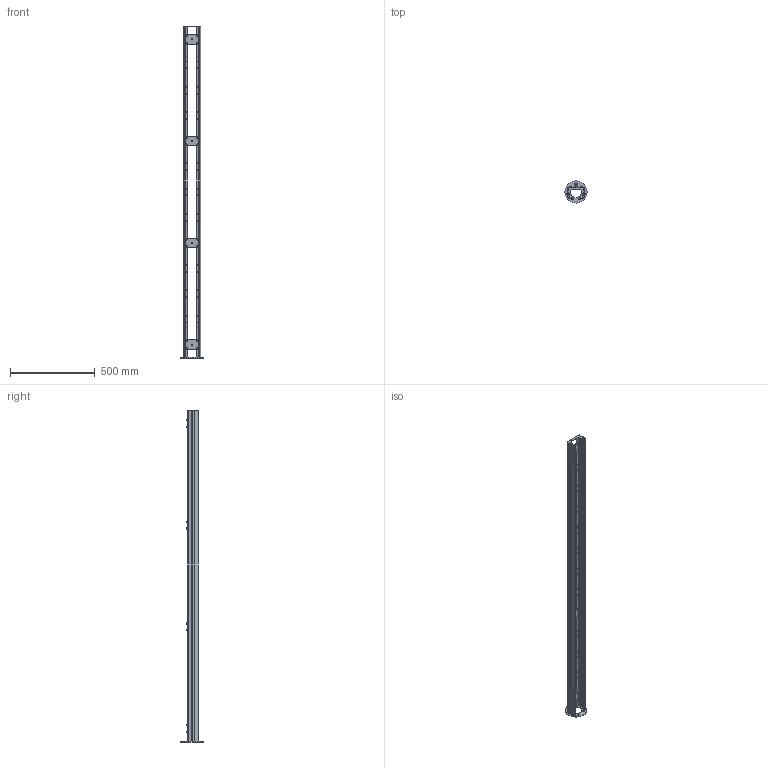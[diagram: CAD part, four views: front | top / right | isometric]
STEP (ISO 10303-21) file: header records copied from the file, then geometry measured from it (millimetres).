
FILE_DESCRIPTION(/* description */ (''),/* implementation_level */ '2;1');
FILE_NAME(/* name */ '001A-04-Device_Column_1950mm.stp',/* time_stamp */ '2025-11-12T00:13:17+01:00',/* author */ (''),/* organization */ (''),/* preprocessor_version */ 'ST-DEVELOPER v20',/* originating_system */ 'SIEMENS PLM Software NX2412.4001',/* authorisation */ '');
FILE_SCHEMA (('AP203_CONFIGURATION_CONTROLLED_3D_DESIGN_OF_MECHANICAL_PARTS_AND_ASSEMBLIES_MIM_LF { 1 0 10303 403 2 1 2}'));
Products named in the file (1): AS007798_objects
Bounding box: 130 x 130 x 1958.25 mm (x, y, z)
Volume: 6825402.8 mm3; surface area: 7063612.3 mm2
Topology: 106 solids, 106 shells, 5021 faces, 14262 edges, 9489 vertices
Faces by surface type: plane 2568, cylinder 1601, cone 814, torus 24, bspline 10, sphere 4
Full cylindrical faces by diameter (mm): 4.2 x16, 5 x328, 5.25 x2, 5.3 x16, 5.5 x32, 5.6 x16, 5.795 x28, 7 x16, 7.2 x4, 8.5 x16, 10 x16, 12 x7, 68 x1, 130 x1
Entity records: 184107 total; most frequent: CARTESIAN_POINT 48224, DIRECTION 28912, ORIENTED_EDGE 26680, EDGE_CURVE 13340, AXIS2_PLACEMENT_3D 11070, VERTEX_POINT 9108, LINE 6772, VECTOR 6772
